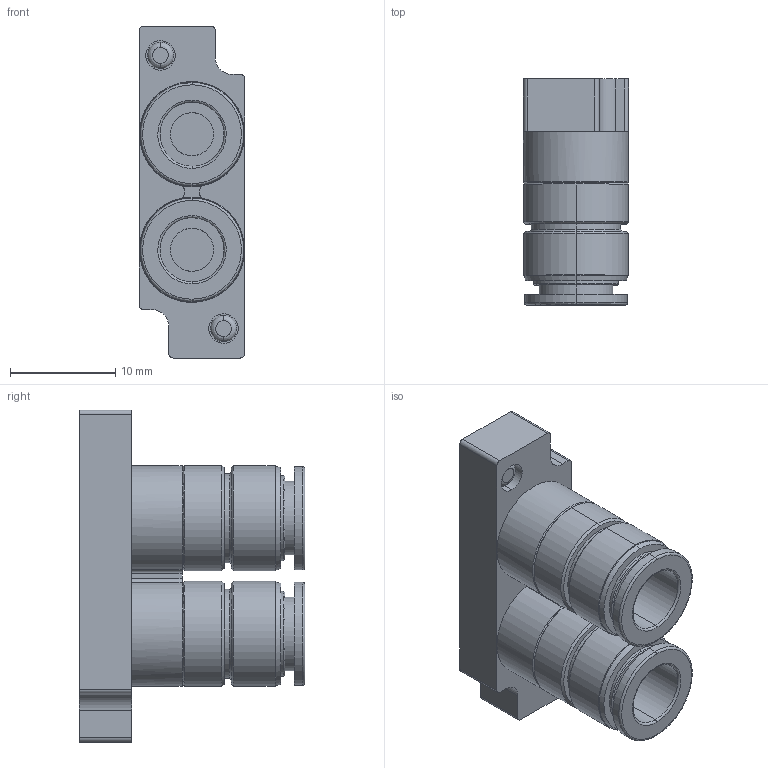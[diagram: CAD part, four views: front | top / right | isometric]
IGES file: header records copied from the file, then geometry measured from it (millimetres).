
Start section: ------------------------------------------------------------------------
Global section: file name: D:\ICADMX\tmp\trans3d_spg\CVICAD02.21404.F10_Port-FJ_15074.igs; native system: spGate; preprocessor: ver12.6.6; author: Unknown; organization: Unknown; date: 200901.145736; units: millimetre
Bounding box: 10 x 21.5 x 31.6 mm (x, y, z)
Volume: 3393.9 mm3; surface area: 2634.1 mm2
Topology: 1 solids, 1 shells, 130 faces, 282 edges, 172 vertices
Faces by surface type: bspline 130
